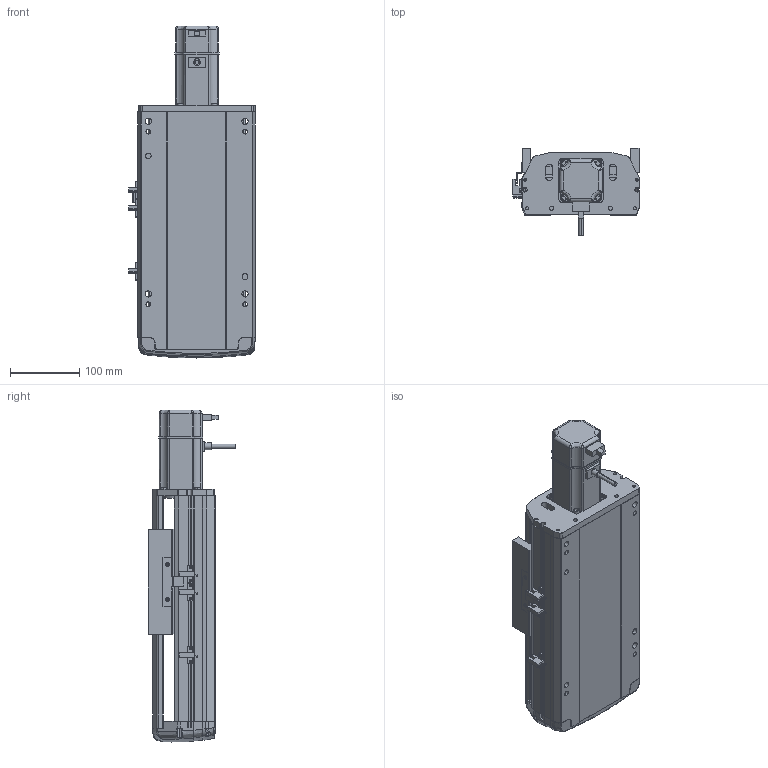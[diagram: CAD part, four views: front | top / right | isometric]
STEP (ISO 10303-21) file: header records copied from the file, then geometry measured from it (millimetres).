
FILE_DESCRIPTION (( 'STEP AP214' ), '1' );
FILE_NAME ('RTH17-XX-100-E-M40-C4（方程式）.STEP', '2025-10-24T05:35:45', ( '' ), ( '' ), 'SwSTEP 2.0', 'SolidWorks 2018', '' );
FILE_SCHEMA (( 'AUTOMOTIVE_DESIGN' ));
Length unit declared in the file: millimetre
Products named in the file (9): N_RTH17-E-004丝杆螺母连接座^RTH17-XX-XX-E-M40-C4（方程式）; N_RTH17-GY-001P^RTH17-XX-XX-E-M40-C4（方程式）; N_RTH-BL-012 感应片(外置)^RTH17-XX-XX-E-M40-C4（方程式）; N_RTH17-E-007上盖^RTH17-XX-XX-E-M40-C4（方程式）; RTH17-XX-100-E-M40-C4（方程式）; N_OMRON EE-SX672 換覜ん^RTH17-XX-XX-E-M40-C4ㄗ源最宒ㄘ; N_M40^RTH17-XX-XX-E-M40-C4（方程式）; N_RTH17-E-011底座^RTH17-XX-XX-E-M40-C4（方程式）; N_RTH17-E-008-P40电机板^RTH17-XX-XX-E-M40-C4（方程式）
Assembly tree (10 placements, depth 2):
  RTH17-XX-100-E-M40-C4（方程式）
    N_RTH17-E-011底座^RTH17-XX-XX-E-M40-C4（方程式）
    N_RTH17-E-007上盖^RTH17-XX-XX-E-M40-C4（方程式）
    N_RTH17-E-008-P40电机板^RTH17-XX-XX-E-M40-C4（方程式）
    N_OMRON EE-SX672 換覜ん^RTH17-XX-XX-E-M40-C4ㄗ源最宒ㄘ  x3
    N_RTH-BL-012 感应片(外置)^RTH17-XX-XX-E-M40-C4（方程式）
    N_RTH17-E-004丝杆螺母连接座^RTH17-XX-XX-E-M40-C4（方程式）
    N_RTH17-GY-001P^RTH17-XX-XX-E-M40-C4（方程式）
    N_M40^RTH17-XX-XX-E-M40-C4（方程式）
Bounding box: 183.5 x 127 x 480.77 mm (x, y, z)
Volume: 3614886.7 mm3; surface area: 529674.7 mm2
Topology: 9 solids, 11 shells, 1617 faces, 4495 edges, 2930 vertices
Faces by surface type: plane 821, cylinder 429, bspline 330, cone 28, torus 9
Entity records: 46493 total; most frequent: CARTESIAN_POINT 18762, ORIENTED_EDGE 6014, DIRECTION 4995, EDGE_CURVE 3011, VERTEX_POINT 1966, VECTOR 1723, LINE 1723, AXIS2_PLACEMENT_3D 1636
